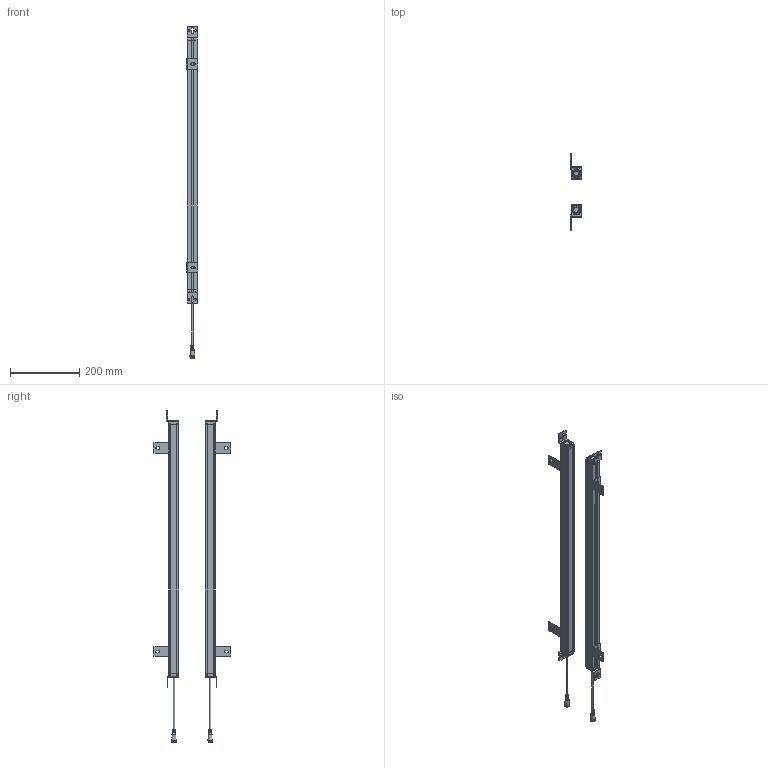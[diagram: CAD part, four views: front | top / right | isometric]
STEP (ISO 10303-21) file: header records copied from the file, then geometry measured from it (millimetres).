
FILE_DESCRIPTION(/* description */ (''),/* implementation_level */ '2;1');
FILE_NAME(/* name */ '1840（29x30）_stp_stp.stp',/* time_stamp */ '2023-04-28T10:22:12+08:00',/* author */ (''),/* organization */ (''),/* preprocessor_version */ 'ST-DEVELOPER v16.7',/* originating_system */ 'SIEMENS PLM Software NX 12.0',/* authorisation */ '');
FILE_SCHEMA (('AUTOMOTIVE_DESIGN { 1 0 10303 214 3 1 1 1 }'));
Products named in the file (1): 1840（29x30）_stp_stp_stp
Bounding box: 32.03 x 223.99 x 961 mm (x, y, z)
Volume: 478850.9 mm3; surface area: 495672.9 mm2
Topology: 34 solids, 34 shells, 1610 faces, 4267 edges, 2771 vertices
Faces by surface type: plane 750, cylinder 648, bspline 88, sphere 36, cone 36, torus 32, extrusion 20
Full cylindrical faces by diameter (mm): 1.533 x6, 4.4 x4, 9 x2, 12.5 x2
Entity records: 56427 total; most frequent: CARTESIAN_POINT 16064, DIRECTION 8330, ORIENTED_EDGE 8324, EDGE_CURVE 4162, AXIS2_PLACEMENT_3D 2918, VERTEX_POINT 2696, VECTOR 2494, LINE 2474
